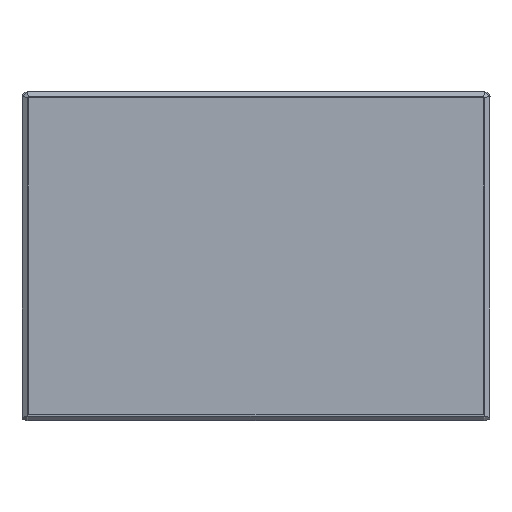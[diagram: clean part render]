
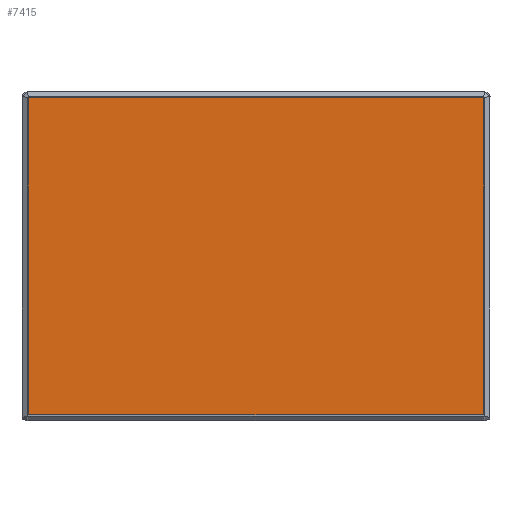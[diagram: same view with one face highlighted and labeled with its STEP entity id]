
A CAD part, front view. The second image highlights one B-rep face of the part: STEP entity #7415.
In plain terms, the highlighted planar face has unit normal (0, -1, 0).
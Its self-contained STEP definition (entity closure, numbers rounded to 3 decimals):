
#1086=(
BOUNDED_CURVE()
B_SPLINE_CURVE(2,(#110180,#110181,#110182),.UNSPECIFIED.,.F.,.F.)
B_SPLINE_CURVE_WITH_KNOTS((3,3),(-714.73,-714.33),
 .UNSPECIFIED.)
CURVE()
GEOMETRIC_REPRESENTATION_ITEM()
RATIONAL_B_SPLINE_CURVE((1.,0.707,1.))
REPRESENTATION_ITEM('')
);
#1089=(
BOUNDED_CURVE()
B_SPLINE_CURVE(2,(#110194,#110195,#110196),.UNSPECIFIED.,.F.,.F.)
B_SPLINE_CURVE_WITH_KNOTS((3,3),(-449.83,-449.43),
 .UNSPECIFIED.)
CURVE()
GEOMETRIC_REPRESENTATION_ITEM()
RATIONAL_B_SPLINE_CURVE((1.,0.707,1.))
REPRESENTATION_ITEM('')
);
#1092=(
BOUNDED_CURVE()
B_SPLINE_CURVE(2,(#110208,#110209,#110210),.UNSPECIFIED.,.F.,.F.)
B_SPLINE_CURVE_WITH_KNOTS((3,3),(-265.3,-264.9),.UNSPECIFIED.)
CURVE()
GEOMETRIC_REPRESENTATION_ITEM()
RATIONAL_B_SPLINE_CURVE((1.,0.707,1.))
REPRESENTATION_ITEM('')
);
#1094=(
BOUNDED_CURVE()
B_SPLINE_CURVE(2,(#110220,#110221,#110222),.UNSPECIFIED.,.F.,.F.)
B_SPLINE_CURVE_WITH_KNOTS((3,3),(-0.4,0.),.UNSPECIFIED.)
CURVE()
GEOMETRIC_REPRESENTATION_ITEM()
RATIONAL_B_SPLINE_CURVE((1.,0.707,1.))
REPRESENTATION_ITEM('')
);
#7415=ADVANCED_FACE('',(#9555),#49890,.T.);
#9555=FACE_OUTER_BOUND('',#11759,.T.);
#11759=EDGE_LOOP('',(#23608,#23609,#23610,#23611,#23612,#23613,#23614,#23615));
#23608=ORIENTED_EDGE('',*,*,#32528,.T.);
#23609=ORIENTED_EDGE('',*,*,#32532,.T.);
#23610=ORIENTED_EDGE('',*,*,#32535,.T.);
#23611=ORIENTED_EDGE('',*,*,#32538,.T.);
#23612=ORIENTED_EDGE('',*,*,#32541,.T.);
#23613=ORIENTED_EDGE('',*,*,#32544,.T.);
#23614=ORIENTED_EDGE('',*,*,#32547,.T.);
#23615=ORIENTED_EDGE('',*,*,#32549,.T.);
#32528=EDGE_CURVE('',#48410,#48409,#40477,.T.);
#32532=EDGE_CURVE('',#48409,#48412,#1086,.T.);
#32535=EDGE_CURVE('',#48412,#48414,#40481,.T.);
#32538=EDGE_CURVE('',#48414,#48416,#1089,.T.);
#32541=EDGE_CURVE('',#48416,#48418,#40484,.T.);
#32544=EDGE_CURVE('',#48418,#48420,#1092,.T.);
#32547=EDGE_CURVE('',#48420,#48422,#40487,.T.);
#32549=EDGE_CURVE('',#48422,#48410,#1094,.T.);
#40477=B_SPLINE_CURVE_WITH_KNOTS('',1,(#110171,#110172),.UNSPECIFIED.,.F.,
 .F.,(2,2),(-898.86,-714.73),.UNSPECIFIED.);
#40481=B_SPLINE_CURVE_WITH_KNOTS('',1,(#110187,#110188),.UNSPECIFIED.,.F.,
 .F.,(2,2),(-714.33,-449.83),.UNSPECIFIED.);
#40484=B_SPLINE_CURVE_WITH_KNOTS('',1,(#110201,#110202),.UNSPECIFIED.,.F.,
 .F.,(2,2),(-449.43,-265.3),.UNSPECIFIED.);
#40487=B_SPLINE_CURVE_WITH_KNOTS('',1,(#110215,#110216),.UNSPECIFIED.,.F.,
 .F.,(2,2),(-264.9,-0.4),.UNSPECIFIED.);
#48409=VERTEX_POINT('',#110153);
#48410=VERTEX_POINT('',#110154);
#48412=VERTEX_POINT('',#110156);
#48414=VERTEX_POINT('',#110158);
#48416=VERTEX_POINT('',#110160);
#48418=VERTEX_POINT('',#110162);
#48420=VERTEX_POINT('',#110164);
#48422=VERTEX_POINT('',#110166);
#49890=PLANE('',#51378);
#51378=AXIS2_PLACEMENT_3D('',#110150,#52851,$);
#52851=DIRECTION('',(0.,-1.,0.));
#110150=CARTESIAN_POINT('',(303.467,0.404,19.004));
#110153=CARTESIAN_POINT('',(5.454,0.404,-188.392));
#110154=CARTESIAN_POINT('',(5.454,0.404,-4.262));
#110156=CARTESIAN_POINT('',(5.654,0.404,-188.592));
#110158=CARTESIAN_POINT('',(270.154,0.404,-188.592));
#110160=CARTESIAN_POINT('',(270.354,0.404,-188.392));
#110162=CARTESIAN_POINT('',(270.354,0.404,-4.262));
#110164=CARTESIAN_POINT('',(270.154,0.404,-4.062));
#110166=CARTESIAN_POINT('',(5.654,0.404,-4.062));
#110171=CARTESIAN_POINT('',(5.454,0.404,-4.262));
#110172=CARTESIAN_POINT('',(5.454,0.404,-188.392));
#110180=CARTESIAN_POINT('',(5.454,0.404,-188.392));
#110181=CARTESIAN_POINT('',(5.454,0.404,-188.592));
#110182=CARTESIAN_POINT('',(5.654,0.404,-188.592));
#110187=CARTESIAN_POINT('',(5.654,0.404,-188.592));
#110188=CARTESIAN_POINT('',(270.154,0.404,-188.592));
#110194=CARTESIAN_POINT('',(270.154,0.404,-188.592));
#110195=CARTESIAN_POINT('',(270.354,0.404,-188.592));
#110196=CARTESIAN_POINT('',(270.354,0.404,-188.392));
#110201=CARTESIAN_POINT('',(270.354,0.404,-188.392));
#110202=CARTESIAN_POINT('',(270.354,0.404,-4.262));
#110208=CARTESIAN_POINT('',(270.354,0.404,-4.262));
#110209=CARTESIAN_POINT('',(270.354,0.404,-4.062));
#110210=CARTESIAN_POINT('',(270.154,0.404,-4.062));
#110215=CARTESIAN_POINT('',(270.154,0.404,-4.062));
#110216=CARTESIAN_POINT('',(5.654,0.404,-4.062));
#110220=CARTESIAN_POINT('',(5.654,0.404,-4.062));
#110221=CARTESIAN_POINT('',(5.454,0.404,-4.062));
#110222=CARTESIAN_POINT('',(5.454,0.404,-4.262));
